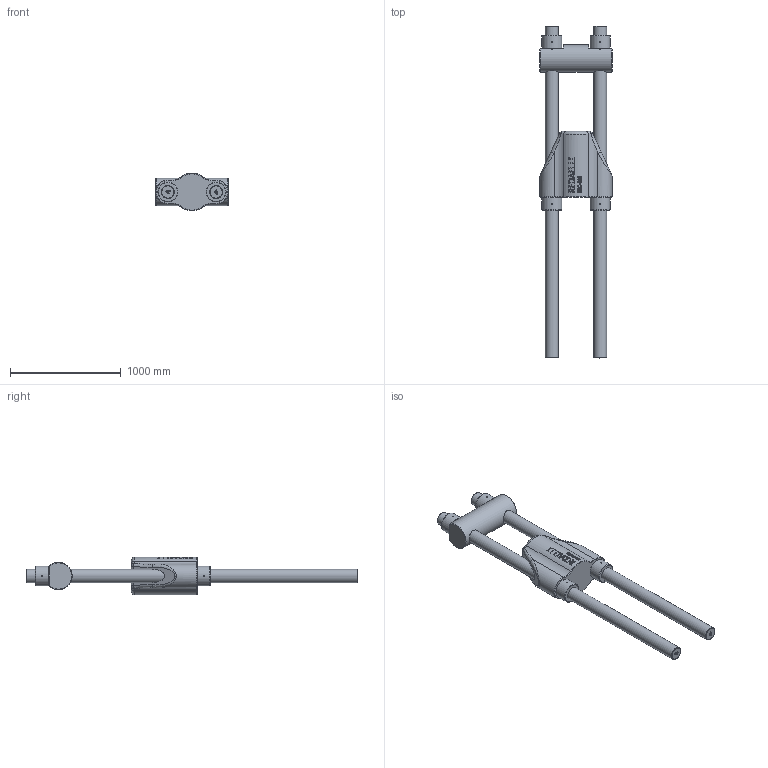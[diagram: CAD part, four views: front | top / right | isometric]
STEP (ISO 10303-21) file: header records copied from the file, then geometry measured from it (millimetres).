
FILE_DESCRIPTION(/* description */ (''),/* implementation_level */ '2;1');
FILE_NAME(/* name */ 'D:\Clienti\Redaelli (inventor)\BRC\STEP\Arrangemet\BRC108 72 111 0.stp',/* time_stamp */ '2021-05-08T08:40:47+02:00',/* author */ ('fabri'),/* organization */ (''),/* preprocessor_version */ 'ST-DEVELOPER v16.13',/* originating_system */ 'Autodesk Inventor 2018',/* authorisation */ '');
FILE_SCHEMA (('AUTOMOTIVE_DESIGN { 1 0 10303 214 3 1 1 }'));
Length unit declared in the file: millimetre
Products named in the file (5): BRC020 72 111 0; BRC020 71 112 0; BRC020 71 114 0_ROD; BRC020 71 113 0; BRC020 71 114 0_NUT
Assembly tree (8 placements, depth 2):
  BRC020 72 111 0
    BRC020 71 112 0
    BRC020 71 114 0_ROD  x2
    BRC020 71 113 0
    BRC020 71 114 0_NUT  x4
Bounding box: 652 x 3000 x 339.18 mm (x, y, z)
Volume: 167550388.4 mm3; surface area: 4907320.4 mm2
Topology: 8 solids, 8 shells, 1524 faces, 4070 edges, 2702 vertices
Faces by surface type: plane 724, bspline 675, cylinder 71, cone 30, torus 20, sphere 4
Full cylindrical faces by diameter (mm): 10 x16, 113.505 x4, 120 x2, 125 x4, 180 x4, 248 x1
Entity records: 30309 total; most frequent: CARTESIAN_POINT 11685, ORIENTED_EDGE 4418, DIRECTION 2621, EDGE_CURVE 2209, VERTEX_POINT 1472, LINE 1223, VECTOR 1223, EDGE_LOOP 953
